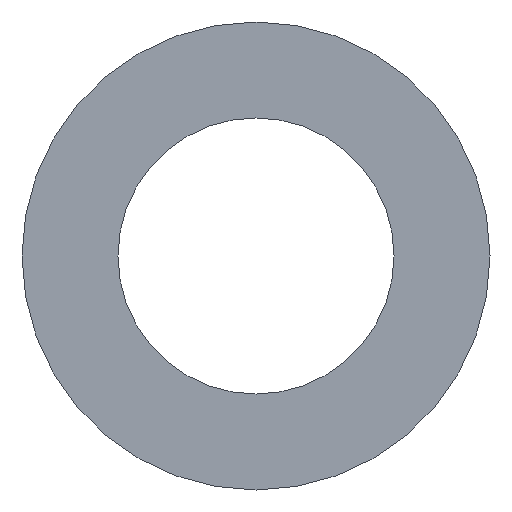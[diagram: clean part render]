
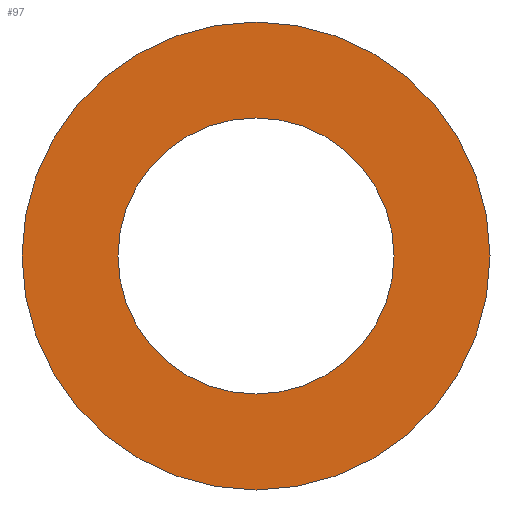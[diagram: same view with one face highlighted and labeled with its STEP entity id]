
A CAD part, front view. The second image highlights one B-rep face of the part: STEP entity #97.
In plain terms, the highlighted planar face has unit normal (0, -1, 0).
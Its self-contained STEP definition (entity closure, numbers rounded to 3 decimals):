
#21=FACE_BOUND('',#40,.T.);
#29=FACE_OUTER_BOUND('',#39,.T.);
#39=EDGE_LOOP('',(#79));
#40=EDGE_LOOP('',(#80));
#53=CIRCLE('',#109,14.75);
#54=CIRCLE('',#111,25.);
#61=VERTEX_POINT('',#162);
#62=VERTEX_POINT('',#165);
#69=EDGE_CURVE('',#61,#61,#53,.T.);
#70=EDGE_CURVE('',#62,#62,#54,.T.);
#79=ORIENTED_EDGE('',*,*,#70,.F.);
#80=ORIENTED_EDGE('',*,*,#69,.T.);
#92=PLANE('',#110);
#97=ADVANCED_FACE('',(#29,#21),#92,.T.);
#109=AXIS2_PLACEMENT_3D('',#163,#131,#132);
#110=AXIS2_PLACEMENT_3D('',#164,#133,#134);
#111=AXIS2_PLACEMENT_3D('',#166,#135,#136);
#131=DIRECTION('center_axis',(0.,1.,0.));
#132=DIRECTION('ref_axis',(1.,0.,0.));
#133=DIRECTION('center_axis',(0.,-1.,0.));
#134=DIRECTION('ref_axis',(0.,0.,-1.));
#135=DIRECTION('center_axis',(0.,1.,0.));
#136=DIRECTION('ref_axis',(1.,0.,0.));
#162=CARTESIAN_POINT('',(-14.75,0.,0.));
#163=CARTESIAN_POINT('Origin',(0.,0.,0.));
#164=CARTESIAN_POINT('Origin',(-25.,0.,0.));
#165=CARTESIAN_POINT('',(-25.,0.,0.));
#166=CARTESIAN_POINT('Origin',(0.,0.,0.));
